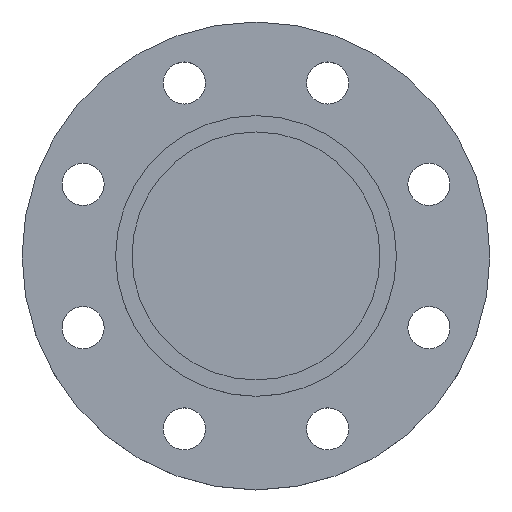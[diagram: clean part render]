
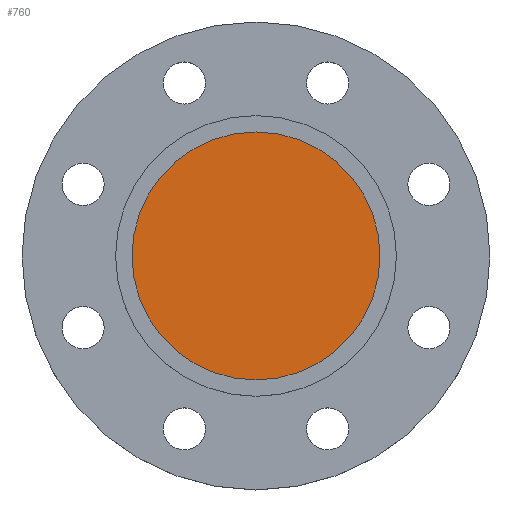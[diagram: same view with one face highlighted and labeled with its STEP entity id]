
A CAD part, top view. The second image highlights one B-rep face of the part: STEP entity #760.
In plain terms, the highlighted planar face has unit normal (0, 0, 1).
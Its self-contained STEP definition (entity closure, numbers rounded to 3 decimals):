
#5 = AXIS2_PLACEMENT_3D ( 'NONE', #285, #282, #281 ) ;
#106 = AXIS2_PLACEMENT_3D ( 'NONE', #438, #437, #436 ) ;
#154 = DIRECTION ( 'NONE',  ( -1., 0., 0. ) ) ;
#155 = DIRECTION ( 'NONE',  ( 0., 0., -1. ) ) ;
#157 = CARTESIAN_POINT ( 'NONE',  ( 0., 0., -4.5 ) ) ;
#196 = CARTESIAN_POINT ( 'NONE',  ( 53., 0., -4.5 ) ) ;
#215 = CARTESIAN_POINT ( 'NONE',  ( -53., 0., -4.5 ) ) ;
#281 = DIRECTION ( 'NONE',  ( 1., 0., 0. ) ) ;
#282 = DIRECTION ( 'NONE',  ( 0., 0., 1. ) ) ;
#285 = CARTESIAN_POINT ( 'NONE',  ( 53., 0., -4.5 ) ) ;
#286 = PLANE ( 'NONE',  #5 ) ;
#287 = FACE_OUTER_BOUND ( 'NONE', #751, .T. ) ;
#436 = DIRECTION ( 'NONE',  ( -1., 0., 0. ) ) ;
#437 = DIRECTION ( 'NONE',  ( 0., 0., -1. ) ) ;
#438 = CARTESIAN_POINT ( 'NONE',  ( 0., 0., -4.5 ) ) ;
#512 = EDGE_CURVE ( 'NONE', #911, #924, #519, .T. ) ;
#519 = CIRCLE ( 'NONE', #106, 53. ) ;
#527 = AXIS2_PLACEMENT_3D ( 'NONE', #157, #155, #154 ) ;
#529 = CIRCLE ( 'NONE', #527, 53. ) ;
#751 = EDGE_LOOP ( 'NONE', ( #883, #884 ) ) ;
#760 = ADVANCED_FACE ( 'NONE', ( #287 ), #286, .T. ) ;
#883 = ORIENTED_EDGE ( 'NONE', *, *, #949, .F. ) ;
#884 = ORIENTED_EDGE ( 'NONE', *, *, #512, .F. ) ;
#911 = VERTEX_POINT ( 'NONE', #196 ) ;
#924 = VERTEX_POINT ( 'NONE', #215 ) ;
#949 = EDGE_CURVE ( 'NONE', #924, #911, #529, .T. ) ;
